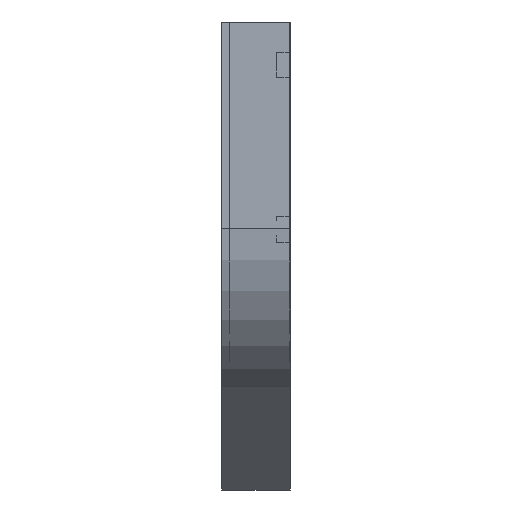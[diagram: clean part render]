
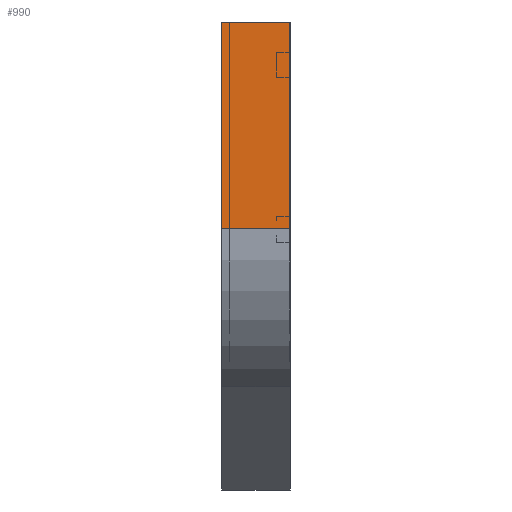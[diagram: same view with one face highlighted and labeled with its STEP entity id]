
A CAD part, left-side view. The second image highlights one B-rep face of the part: STEP entity #990.
In plain terms, the highlighted planar face has unit normal (-1, 0, 0).
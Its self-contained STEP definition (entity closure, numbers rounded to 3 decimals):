
#19 = VERTEX_POINT ( 'NONE', #1579 ) ;
#111 = DIRECTION ( 'NONE',  ( 0., 0., -1. ) ) ;
#122 = LINE ( 'NONE', #988, #1706 ) ;
#149 = PLANE ( 'NONE',  #1552 ) ;
#244 = VECTOR ( 'NONE', #855, 1000. ) ;
#324 = ORIENTED_EDGE ( 'NONE', *, *, #1692, .T. ) ;
#336 = EDGE_CURVE ( 'NONE', #19, #525, #1056, .T. ) ;
#345 = DIRECTION ( 'NONE',  ( 0., -1., 0. ) ) ;
#365 = ORIENTED_EDGE ( 'NONE', *, *, #336, .T. ) ;
#432 = CARTESIAN_POINT ( 'NONE',  ( 0., 112.5, 0. ) ) ;
#525 = VERTEX_POINT ( 'NONE', #1765 ) ;
#528 = EDGE_CURVE ( 'NONE', #1053, #525, #1477, .T. ) ;
#579 = LINE ( 'NONE', #1017, #1228 ) ;
#703 = ORIENTED_EDGE ( 'NONE', *, *, #1267, .F. ) ;
#752 = CARTESIAN_POINT ( 'NONE',  ( 0., 0., 0. ) ) ;
#827 = VECTOR ( 'NONE', #345, 1000. ) ;
#855 = DIRECTION ( 'NONE',  ( 0., 0., -1. ) ) ;
#916 = CARTESIAN_POINT ( 'NONE',  ( 0., 0., -338.675 ) ) ;
#929 = CARTESIAN_POINT ( 'NONE',  ( 0., 0., 0. ) ) ;
#988 = CARTESIAN_POINT ( 'NONE',  ( 0., 0., 0. ) ) ;
#990 = ADVANCED_FACE ( 'NONE', ( #1196 ), #149, .F. ) ;
#1017 = CARTESIAN_POINT ( 'NONE',  ( 0., 112.5, 0. ) ) ;
#1053 = VERTEX_POINT ( 'NONE', #929 ) ;
#1056 = LINE ( 'NONE', #916, #827 ) ;
#1196 = FACE_OUTER_BOUND ( 'NONE', #1588, .T. ) ;
#1228 = VECTOR ( 'NONE', #111, 1000. ) ;
#1267 = EDGE_CURVE ( 'NONE', #1627, #1053, #122, .T. ) ;
#1333 = DIRECTION ( 'NONE',  ( 0., 0., -1. ) ) ;
#1477 = LINE ( 'NONE', #752, #244 ) ;
#1552 = AXIS2_PLACEMENT_3D ( 'NONE', #1762, #1789, #1333 ) ;
#1579 = CARTESIAN_POINT ( 'NONE',  ( 0., 112.5, -338.675 ) ) ;
#1588 = EDGE_LOOP ( 'NONE', ( #1699, #703, #324, #365 ) ) ;
#1627 = VERTEX_POINT ( 'NONE', #432 ) ;
#1692 = EDGE_CURVE ( 'NONE', #1627, #19, #579, .T. ) ;
#1699 = ORIENTED_EDGE ( 'NONE', *, *, #528, .F. ) ;
#1706 = VECTOR ( 'NONE', #1851, 1000. ) ;
#1762 = CARTESIAN_POINT ( 'NONE',  ( 0., 0., 0. ) ) ;
#1765 = CARTESIAN_POINT ( 'NONE',  ( 0., 0., -338.675 ) ) ;
#1789 = DIRECTION ( 'NONE',  ( 1., 0., 0. ) ) ;
#1851 = DIRECTION ( 'NONE',  ( 0., -1., 0. ) ) ;
